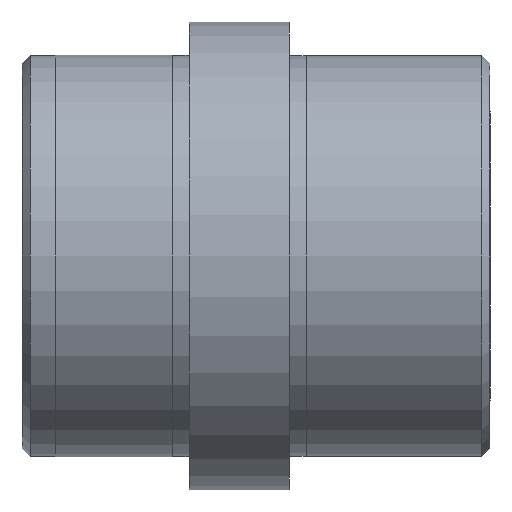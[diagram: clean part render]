
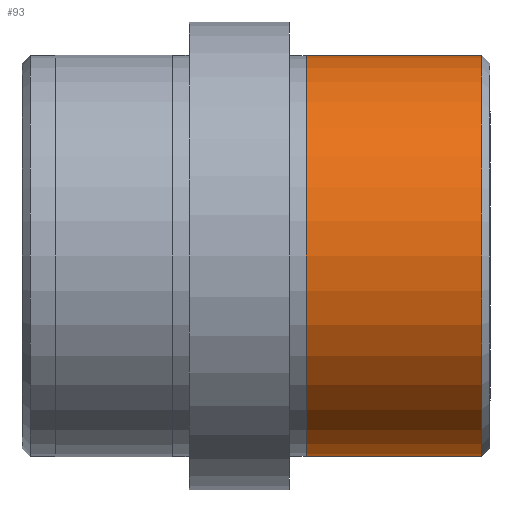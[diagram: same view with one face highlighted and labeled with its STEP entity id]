
A CAD part, front view. The second image highlights one B-rep face of the part: STEP entity #93.
In plain terms, the highlighted face is a revolution surface.
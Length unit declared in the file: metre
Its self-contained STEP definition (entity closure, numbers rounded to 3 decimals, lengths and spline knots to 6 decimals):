
#93 = ADVANCED_FACE( '', ( #143 ), #144, .F. );
#143 = FACE_OUTER_BOUND( '', #314, .T. );
#144 = SURFACE_OF_REVOLUTION( '', #315, #316 );
#314 = EDGE_LOOP( '', ( #465, #466, #467, #468 ) );
#315 = B_SPLINE_CURVE_WITH_KNOTS( '', 1, ( #469, #470 ), .UNSPECIFIED., .F., .F., ( 2, 2 ), ( -10000., 10000. ), .UNSPECIFIED. );
#316 = AXIS1_PLACEMENT( '', #471, #472 );
#465 = ORIENTED_EDGE( '', *, *, #590, .F. );
#466 = ORIENTED_EDGE( '', *, *, #588, .T. );
#467 = ORIENTED_EDGE( '', *, *, #582, .T. );
#468 = ORIENTED_EDGE( '', *, *, #587, .T. );
#469 = CARTESIAN_POINT( '', ( -9999.983, 0., -0.012 ) );
#470 = CARTESIAN_POINT( '', ( 10000.017, 0., -0.012 ) );
#471 = CARTESIAN_POINT( '', ( 0.028, 0., 0. ) );
#472 = DIRECTION( '', ( -1., 0., 0. ) );
#582 = EDGE_CURVE( '', #655, #657, #660, .F. );
#587 = EDGE_CURVE( '', #657, #667, #668, .F. );
#588 = EDGE_CURVE( '', #669, #655, #670, .T. );
#590 = EDGE_CURVE( '', #669, #667, #672, .F. );
#655 = VERTEX_POINT( '', #793 );
#657 = VERTEX_POINT( '', #796 );
#660 = CIRCLE( '', #800, 0.012 );
#667 = VERTEX_POINT( '', #809 );
#668 = LINE( '', #810, #811 );
#669 = VERTEX_POINT( '', #812 );
#670 = LINE( '', #813, #814 );
#672 = CIRCLE( '', #816, 0.012 );
#793 = CARTESIAN_POINT( '', ( 0.0275, 0., -0.012 ) );
#796 = CARTESIAN_POINT( '', ( 0.0275, 0., 0.012 ) );
#800 = AXIS2_PLACEMENT_3D( '', #920, #921, #922 );
#809 = CARTESIAN_POINT( '', ( 0.017, 0., 0.012 ) );
#810 = CARTESIAN_POINT( '', ( 0.017, 0., 0.012 ) );
#811 = VECTOR( '', #931, 1. );
#812 = CARTESIAN_POINT( '', ( 0.017, 0., -0.012 ) );
#813 = CARTESIAN_POINT( '', ( 0.017, 0., -0.012 ) );
#814 = VECTOR( '', #932, 1. );
#816 = AXIS2_PLACEMENT_3D( '', #936, #937, #938 );
#920 = CARTESIAN_POINT( '', ( 0.0275, 0., 0. ) );
#921 = DIRECTION( '', ( 1., 0., 0. ) );
#922 = DIRECTION( '', ( 0., 0., -1. ) );
#931 = DIRECTION( '', ( 1., 0., 0. ) );
#932 = DIRECTION( '', ( 1., 0., 0. ) );
#936 = CARTESIAN_POINT( '', ( 0.017, 0., 0. ) );
#937 = DIRECTION( '', ( 1., 0., 0. ) );
#938 = DIRECTION( '', ( 0., 0., -1. ) );
